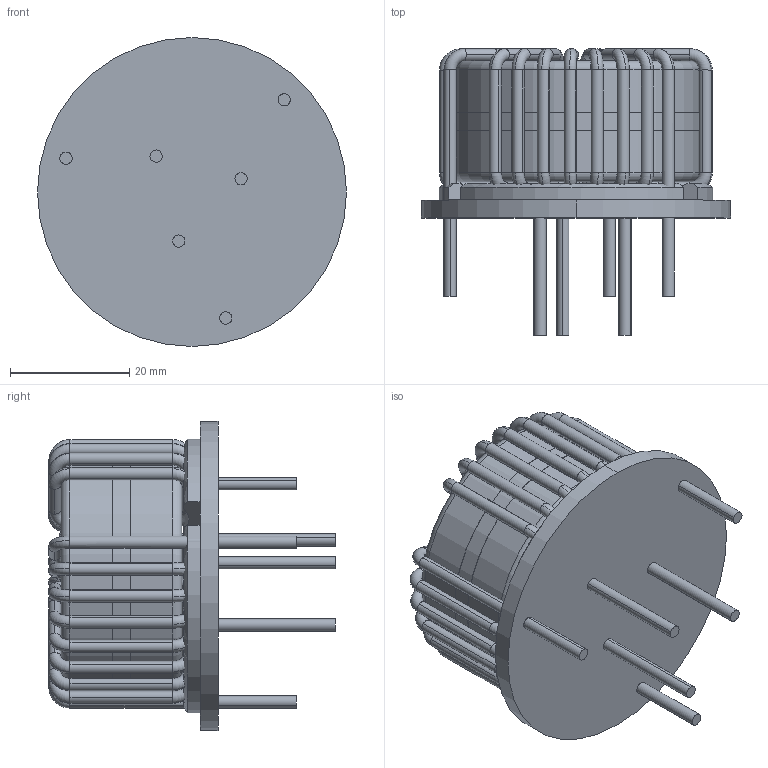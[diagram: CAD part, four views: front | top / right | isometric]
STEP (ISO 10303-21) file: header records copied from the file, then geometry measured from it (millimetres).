
FILE_DESCRIPTION (( 'STEP AP203' ), '1' );
FILE_NAME ('TPW-352U-B20A.STEP', '2020-07-04T07:49:14', ( 'Windows User' ), ( '' ), 'SwSTEP 2.0', 'SolidWorks 2015', '' );
FILE_SCHEMA (( 'CONFIG_CONTROL_DESIGN' ));
Length unit declared in the file: millimetre
Products named in the file (1): TPW-352U-B20A
Bounding box: 51.74 x 47.96 x 51.74 mm (x, y, z)
Volume: 32920.6 mm3; surface area: 25587.2 mm2
Topology: 18 solids, 18 shells, 511 faces, 1408 edges, 936 vertices
Faces by surface type: cylinder 203, torus 200, bspline 57, plane 51
Entity records: 21449 total; most frequent: CARTESIAN_POINT 8010, DIRECTION 3052, ORIENTED_EDGE 2816, EDGE_CURVE 1408, AXIS2_PLACEMENT_3D 1405, CIRCLE 950, VERTEX_POINT 936, EDGE_LOOP 528
